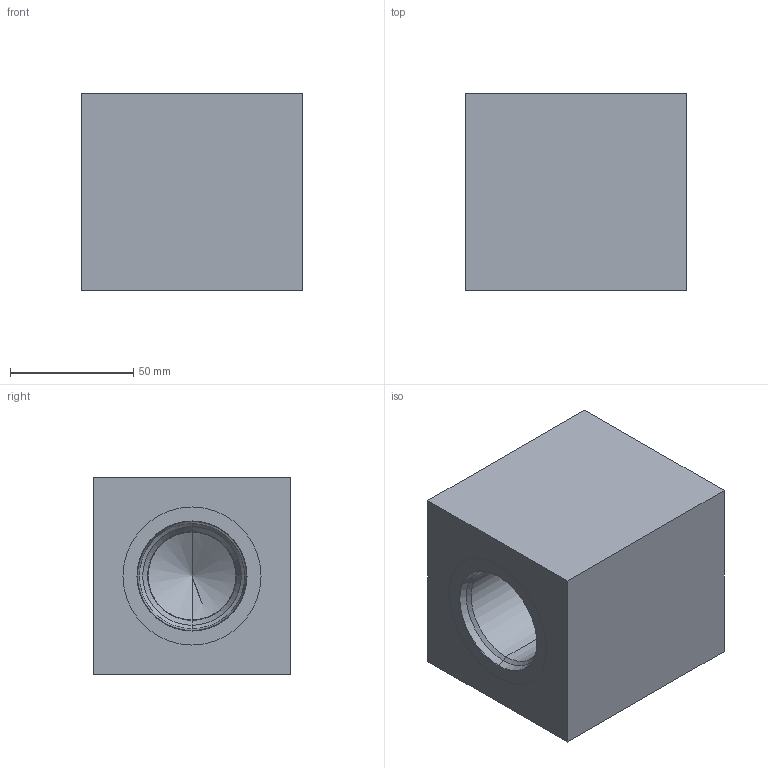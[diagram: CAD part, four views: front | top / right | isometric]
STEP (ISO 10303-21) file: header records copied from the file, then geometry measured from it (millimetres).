
FILE_DESCRIPTION (( 'STEP AP214' ), '1' );
FILE_NAME ('2.13-1048_ISO 7789-42-02-0-07.STEP', '2022-01-11T07:42:40', ( '' ), ( '' ), 'SwSTEP 2.0', 'SolidWorks 2020', '' );
FILE_SCHEMA (( 'AUTOMOTIVE_DESIGN' ));
Length unit declared in the file: millimetre
Products named in the file (1): 2.13-1048_ISO 7789-42-02-0-07
Bounding box: 90 x 80 x 80 mm (x, y, z)
Volume: 498925.1 mm3; surface area: 48833 mm2
Topology: 1 solids, 1 shells, 28 faces, 58 edges, 33 vertices
Faces by surface type: cone 8, cylinder 8, plane 8, torus 4
Entity records: 1044 total; most frequent: DIRECTION 142, CARTESIAN_POINT 118, ORIENTED_EDGE 112, AXIS2_PLACEMENT_3D 57, EDGE_CURVE 56, VERTEX_POINT 33, EDGE_LOOP 31, UNCERTAINTY_MEASURE_WITH_UNIT 29
